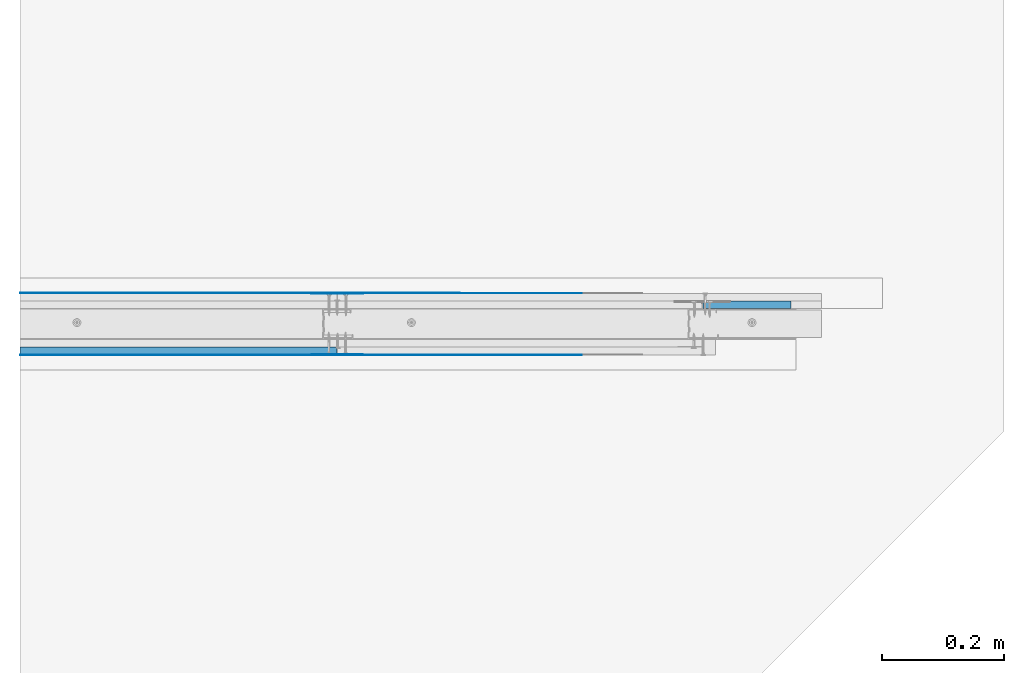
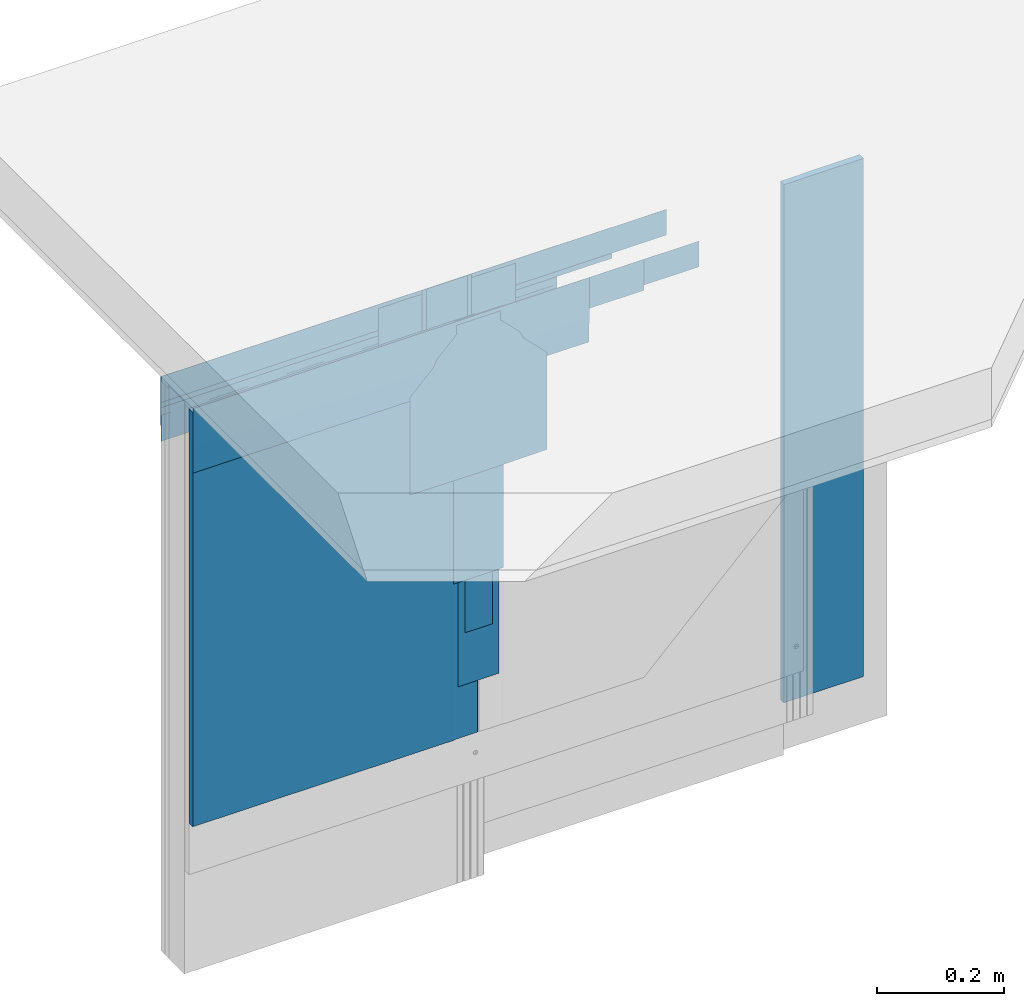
# One storey, part 4 of 37: 16 walls.
"""IFC2X3 building model written with IfcOpenShell, lengths in millimetres."""

from ifc_helpers import new_model, entity, si_unit, converted_unit, direction, frame, origin, origin_with_axes, place, context, project, spatial, faceted_brep, element, save


model = new_model("IFC2X3")

# Units and contexts
model_context = context("Model", 3, precision=1e-05, world=origin(), true_north=direction((0.0, 1.0, 0.0)))
ifc_project = project(units=[si_unit("LENGTHUNIT", "METRE", prefix="MILLI"), si_unit("AREAUNIT", "SQUARE_METRE"), si_unit("VOLUMEUNIT", "CUBIC_METRE"), converted_unit("PLANEANGLEUNIT", "DEGREE", entity("IfcPlaneAngleMeasure", 0.01745), si_unit("PLANEANGLEUNIT", "RADIAN"), dimensions=[0, 0, 0, 0, 0, 0, 0]), si_unit("SOLIDANGLEUNIT", "STERADIAN"), si_unit("MASSUNIT", "GRAM"), si_unit("TIMEUNIT", "SECOND"), si_unit("THERMODYNAMICTEMPERATUREUNIT", "DEGREE_CELSIUS"), si_unit("LUMINOUSINTENSITYUNIT", "LUMEN")], contexts=[model_context])

# Site, building, storey
site_placement = place(None, origin_with_axes())
site = spatial("IfcSite", under=ifc_project, at=site_placement, Name="Default Site", CompositionType="ELEMENT")
building_placement = place(site_placement, origin_with_axes())
building = spatial("IfcBuilding", under=site, at=building_placement, Name="Default Building", CompositionType="ELEMENT")
storey_placement = place(building_placement, origin_with_axes())
storey = spatial("IfcBuildingStorey", under=building, at=storey_placement, Name="Default Building Storey", CompositionType="ELEMENT", Elevation=0.0)

# Walls
wall_1_placement = place(storey_placement, frame((2612.545703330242, 5335.636799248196, 2103.683678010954), z_axis=(1.0, 1.078684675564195e-13, 1.253835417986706e-13), x_axis=(-1.253835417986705e-13, -6.938893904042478e-16, 1.0)))
element("IfcWall", 1, at=wall_1_placement, inside=storey, Name="Taśma spoinowa RIGIPS", context=model_context, shape_type="Brep", body=[
    faceted_brep([(-712.4592163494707, 3389.656721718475, 435.8839453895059), (-712.4592163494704, 3389.856721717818, 435.8839453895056), (-762.4592163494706, 3389.856721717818, 435.8839453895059), (-762.4592163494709, 3389.656721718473, 435.8839453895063), (-712.4592163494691, 3389.856721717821, -487.5205698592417), (-712.4592163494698, 3389.656721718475, -487.5205698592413), (-762.45921634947, 3389.656721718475, -487.5205698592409), (-762.4592163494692, 3389.856721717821, -487.5205698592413)], [[[0, 1, 2, 3]], [[4, 5, 6, 7]], [[5, 0, 3, 6]], [[6, 3, 2, 7]], [[7, 2, 1, 4]], [[4, 1, 0, 5]]]),
])
wall_2_placement = place(storey_placement, frame((2113.890138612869, 5336.736799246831, 2128.683678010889), z_axis=(1.0, 1.08201534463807e-13, 1.256333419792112e-13), x_axis=(-1.256333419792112e-13, -3.608224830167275e-16, 1.0)))
element("IfcWall", 2, at=wall_2_placement, inside=storey, Name="Dedykowana masa szpachlowa Rigips - wykończeniowa", context=model_context, shape_type="Brep", body=[
    faceted_brep([(-797.4592163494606, 3390.756721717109, 734.5395101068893), (-812.4592163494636, 3390.7567217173, 734.5395101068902), (-812.4592163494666, 3390.756721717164, 11.1349948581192), (-797.4592163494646, 3390.75672171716, 11.13499485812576), (-762.4602403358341, 3391.516720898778, 734.5395101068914), (-762.4602403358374, 3391.516720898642, 11.13499485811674), (-812.4612643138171, 3391.196716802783, 11.1349948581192), (-812.4612643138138, 3391.19671680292, 734.5395101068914), (-797.4592163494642, 3391.156721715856, 11.13499485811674), (-797.4592163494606, 3391.156721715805, 734.5395101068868), (-737.4592163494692, 3391.516720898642, 11.13499485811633), (-737.4592163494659, 3391.516720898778, 734.539510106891), (-862.459216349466, 3390.556721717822, 11.1349948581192), (-862.4592163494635, 3390.556721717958, 734.539510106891), (-737.4592163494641, 3391.156721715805, 734.539510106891), (-812.4592163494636, 3390.556721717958, 734.5395101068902), (-737.4592163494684, 3391.156721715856, 11.13499485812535), (-812.4592163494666, 3390.556721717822, 11.1349948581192)], [[[0, 1, 2, 3]], [[4, 5, 6, 7]], [[8, 9, 0, 3]], [[10, 5, 4, 11]], [[12, 13, 7, 6]], [[14, 11, 4, 7, 13, 15, 1, 0, 9]], [[16, 10, 11, 14]], [[15, 13, 12, 17]], [[15, 17, 2, 1]], [[16, 14, 9, 8]], [[3, 2, 17, 12, 6, 5, 10, 16, 8]]]),
])
wall_3_placement = place(storey_placement, frame((2562.545703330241, 5335.436799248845, 2103.683678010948), z_axis=(1.0, 1.078684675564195e-13, 1.253835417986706e-13), x_axis=(-1.253835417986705e-13, -6.938893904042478e-16, 1.0)))
element("IfcWall", 3, at=wall_3_placement, inside=storey, Name="Dedykowana masa szpachlowa Rigips - konstrukcyjna", context=model_context, shape_type="Brep", body=[
    faceted_brep([(-762.4592163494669, 3389.656721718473, -437.5205698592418), (-762.4592163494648, 3389.656721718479, 385.8839453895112), (-762.4592163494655, 3389.456721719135, 385.8839453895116), (-762.4592163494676, 3389.456721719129, -437.5205698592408), (-772.4592163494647, 3389.456721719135, 385.8839453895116), (-772.4592163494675, 3389.45672171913, -437.5205698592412), (-712.4592163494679, 3389.656721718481, 385.8839453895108), (-712.4592163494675, 3389.856721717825, 385.8839453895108), (-772.4592163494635, 3389.856721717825, 385.8839453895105), (-712.4592163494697, 3389.85672171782, -437.5205698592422), (-712.4592163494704, 3389.656721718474, -437.5205698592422), (-772.4592163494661, 3389.85672171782, -437.5205698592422)], [[[0, 1, 2, 3]], [[2, 4, 5, 3]], [[6, 7, 8, 4, 2, 1]], [[9, 10, 0, 3, 5, 11]], [[0, 10, 6, 1]], [[4, 8, 11, 5]], [[11, 8, 7, 9]], [[9, 7, 6, 10]]]),
])
wall_4_placement = place(storey_placement, frame((2612.545703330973, -1342.31579897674, 2103.683678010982), z_axis=(1.0, 1.078684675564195e-13, 1.253835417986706e-13), x_axis=(-1.253835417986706e-13, -2.775557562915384e-17, 1.0)))
element("IfcWall", 4, at=wall_4_placement, inside=storey, Name="Taśma spoinowa RIGIPS", context=model_context, shape_type="Brep", body=[
    faceted_brep([(-712.4592163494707, -3389.656721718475, 435.8839453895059), (-712.4592163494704, -3389.856721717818, 435.8839453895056), (-762.4592163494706, -3389.856721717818, 435.8839453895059), (-762.4592163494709, -3389.656721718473, 435.8839453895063), (-712.4592163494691, -3389.856721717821, -487.5205698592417), (-712.4592163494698, -3389.656721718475, -487.5205698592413), (-762.45921634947, -3389.656721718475, -487.5205698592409), (-762.4592163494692, -3389.856721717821, -487.5205698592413)], [[[0, 1, 2, 3]], [[4, 5, 6, 7]], [[5, 0, 3, 6]], [[6, 3, 2, 7]], [[7, 2, 1, 4]], [[4, 1, 0, 5]]]),
])
wall_5_placement = place(storey_placement, frame((2113.8901386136, -1343.415798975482, 2128.683678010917), z_axis=(1.0, 1.07535400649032e-13, 1.256333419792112e-13), x_axis=(-1.256333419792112e-13, -3.60822483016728e-16, 1.0)))
element("IfcWall", 5, at=wall_5_placement, inside=storey, Name="Dedykowana masa szpachlowa Rigips - wykończeniowa", context=model_context, shape_type="Brep", body=[
    faceted_brep([(-797.4592163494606, -3390.756721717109, 734.5395101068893), (-812.4592163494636, -3390.7567217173, 734.5395101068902), (-812.4592163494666, -3390.756721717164, 11.1349948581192), (-797.4592163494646, -3390.75672171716, 11.13499485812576), (-762.4602403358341, -3391.516720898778, 734.5395101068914), (-762.4602403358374, -3391.516720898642, 11.13499485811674), (-812.4612643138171, -3391.196716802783, 11.1349948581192), (-812.4612643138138, -3391.19671680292, 734.5395101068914), (-797.4592163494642, -3391.156721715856, 11.13499485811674), (-797.4592163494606, -3391.156721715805, 734.5395101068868), (-737.4592163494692, -3391.516720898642, 11.13499485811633), (-737.4592163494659, -3391.516720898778, 734.539510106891), (-862.459216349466, -3390.556721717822, 11.1349948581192), (-862.4592163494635, -3390.556721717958, 734.539510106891), (-737.4592163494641, -3391.156721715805, 734.539510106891), (-812.4592163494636, -3390.556721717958, 734.5395101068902), (-737.4592163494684, -3391.156721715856, 11.13499485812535), (-812.4592163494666, -3390.556721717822, 11.1349948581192)], [[[0, 1, 2, 3]], [[4, 5, 6, 7]], [[8, 9, 0, 3]], [[10, 5, 4, 11]], [[12, 13, 7, 6]], [[14, 11, 4, 7, 13, 15, 1, 0, 9]], [[16, 10, 11, 14]], [[15, 13, 12, 17]], [[15, 17, 2, 1]], [[16, 14, 9, 8]], [[3, 2, 17, 12, 6, 5, 10, 16, 8]]]),
])
wall_6_placement = place(storey_placement, frame((2562.545703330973, -1342.115798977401, 2103.683678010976), z_axis=(1.0, 1.078684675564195e-13, 1.253835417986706e-13), x_axis=(-1.253835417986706e-13, -2.775557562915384e-17, 1.0)))
element("IfcWall", 6, at=wall_6_placement, inside=storey, Name="Dedykowana masa szpachlowa Rigips - konstrukcyjna", context=model_context, shape_type="Brep", body=[
    faceted_brep([(-762.4592163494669, -3389.656721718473, -437.5205698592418), (-762.4592163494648, -3389.656721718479, 385.8839453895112), (-762.4592163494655, -3389.456721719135, 385.8839453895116), (-762.4592163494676, -3389.456721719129, -437.5205698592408), (-772.4592163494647, -3389.456721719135, 385.8839453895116), (-772.4592163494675, -3389.45672171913, -437.5205698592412), (-712.4592163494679, -3389.656721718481, 385.8839453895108), (-712.4592163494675, -3389.856721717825, 385.8839453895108), (-772.4592163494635, -3389.856721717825, 385.8839453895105), (-712.4592163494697, -3389.85672171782, -437.5205698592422), (-712.4592163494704, -3389.656721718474, -437.5205698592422), (-772.4592163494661, -3389.85672171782, -437.5205698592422)], [[[0, 1, 2, 3]], [[2, 4, 5, 3]], [[6, 7, 8, 4, 2, 1]], [[9, 10, 0, 3, 5, 11]], [[0, 10, 6, 1]], [[4, 8, 11, 5]], [[11, 8, 7, 9]], [[9, 7, 6, 10]]]),
])
for number, where, z_axis, x_axis, name in (
    (7, (1909.970432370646, -1343.415798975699, 1386.260066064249), (0.0, 0.0, -1.0), (-1.0, -8.049116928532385e-16, 0.0), "Dedykowana masa szpachlowa Rigips - wykończeniowa"),
    (8, (3383.70164675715, 5336.736799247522, 1386.260066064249), (0.0, 0.0, -1.0), (1.0, 0.0, 0.0), "Dedykowana masa szpachlowa Rigips - wykończeniowa"),
):
    element("IfcWall", number, at=place(storey_placement, frame(where, z_axis=z_axis, x_axis=x_axis)), inside=storey, Name=name, context=model_context, shape_type="Brep", body=[
        faceted_brep([(-612.459216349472, 3390.556721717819, 2.449996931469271), (-862.459216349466, 3390.556721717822, 2.449996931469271), (-812.4612643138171, 3391.196716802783, 2.449996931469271), (-762.4602403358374, 3391.516720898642, 2.449996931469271), (-712.458192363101, 3391.516720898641, 2.449996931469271), (-662.4571683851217, 3391.19671680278, 2.449996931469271), (-762.4602403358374, 3391.516720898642, 300.8000000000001), (-812.4612643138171, 3391.196716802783, 300.8000000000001), (-862.459216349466, 3390.556721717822, 300.8000000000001), (-612.459216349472, 3390.556721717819, 300.8000000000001), (-662.4571683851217, 3391.19671680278, 300.8000000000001), (-712.458192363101, 3391.516720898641, 300.8000000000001)], [[[0, 1, 2, 3, 4, 5]], [[6, 7, 8, 9, 10, 11]], [[9, 0, 5, 10]], [[10, 5, 4, 11]], [[11, 4, 3, 6]], [[6, 3, 2, 7]], [[1, 8, 7, 2]], [[0, 9, 8, 1]]]),
    ])
wall_7_placement = place(storey_placement, frame((2646.242430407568, 1958.680077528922, 333.8084874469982), z_axis=(0.0, 0.0, -1.0), x_axis=(-1.0, 6.389333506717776e-13, 0.0)))
element("IfcWall", 9, at=wall_7_placement, inside=storey, Name="Płyta gipsowo-kartonowa RIGIPS PRO (4PRO™)", context=model_context, shape_type="Brep", body=[
    faceted_brep([(521.2172969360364, -12.49999999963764, -249.9999999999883), (521.2172969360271, 3.346059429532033e-10, -249.9999999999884), (521.217296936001, 3.313573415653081e-10, -1050.001581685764), (521.2172969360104, -12.49999999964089, -1050.001581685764), (44.99999999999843, -12.50000000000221, -249.9999999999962), (40.99999999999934, -11.50000000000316, -249.9999999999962), (0.9999999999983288, -11.50000000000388, -249.9999999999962), (0.7411809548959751, -11.46592582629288, -249.9999999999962), (0.4999999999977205, -11.3660254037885, -249.9999999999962), (0.29289321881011, -11.20710678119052, -249.9999999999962), (0.1339745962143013, -11.00000000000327, -249.9999999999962), (0.03407417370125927, -10.7588190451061, -249.9999999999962), (-1.443822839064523e-12, -10.50000000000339, -249.9999999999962), (0.0, 0.0, -249.9999999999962), (44.99999999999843, -12.50000000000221, -1050.001581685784), (40.99999999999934, -11.50000000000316, -1050.001581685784), (0.9999999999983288, -11.50000000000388, -1050.001581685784), (0.7411809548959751, -11.46592582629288, -1050.001581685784), (0.4999999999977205, -11.3660254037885, -1050.001581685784), (0.29289321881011, -11.20710678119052, -1050.001581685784), (0.1339745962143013, -11.00000000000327, -1050.001581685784), (0.03407417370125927, -10.7588190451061, -1050.001581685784), (-1.443822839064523e-12, -10.50000000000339, -1050.001581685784), (0.0, 0.0, -1050.001581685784)], [[[0, 1, 2, 3]], [[0, 4, 5, 6, 7, 8, 9, 10, 11, 12, 13, 1]], [[3, 14, 4, 0]], [[5, 4, 14, 15]], [[6, 5, 15, 16]], [[7, 6, 16, 17]], [[8, 7, 17, 18]], [[9, 8, 18, 19]], [[10, 9, 19, 20]], [[11, 10, 20, 21]], [[12, 11, 21, 22]], [[13, 12, 22, 23]], [[2, 1, 13, 23]], [[14, 3, 2, 23, 22, 21, 20, 19, 18, 17, 16, 15]]]),
])
wall_8_placement = place(storey_placement, frame((3247.843862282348, 2022.140922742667, 106.0307584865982), z_axis=(0.0, 0.0, -1.0), x_axis=(1.0, 0.0, 0.0)))
element("IfcWall", 10, at=wall_8_placement, inside=storey, Name="Płyta gipsowo-kartonowa RIGIPS PRO (4PRO™)", context=model_context, shape_type="Brep", body=[
    faceted_brep([(145.1967559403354, -12.49999999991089, -277.7777289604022), (145.1967559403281, 9.059988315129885e-11, -277.7777289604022), (145.1967559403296, 9.023892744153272e-11, -1277.779310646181), (145.1967559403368, -12.49999999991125, -1277.779310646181), (0.0, 0.0, -277.7777289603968), (44.99999999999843, -12.50000000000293, -277.7777289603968), (40.99999999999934, -11.50000000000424, -277.7777289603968), (0.9999999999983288, -11.5000000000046, -277.7777289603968), (0.7411809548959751, -11.46592582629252, -277.7777289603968), (0.4999999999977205, -11.3660254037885, -277.7777289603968), (0.2928932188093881, -11.20710678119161, -277.7777289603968), (0.1339745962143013, -11.00000000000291, -277.7777289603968), (0.03407417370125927, -10.7588190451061, -277.7777289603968), (-2.887645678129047e-12, -10.50000000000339, -277.7777289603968), (44.99999999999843, -12.50000000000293, -1277.779310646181), (40.99999999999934, -11.50000000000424, -1277.779310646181), (0.9999999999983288, -11.5000000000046, -1277.779310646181), (0.7411809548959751, -11.46592582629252, -1277.779310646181), (0.4999999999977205, -11.3660254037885, -1277.779310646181), (0.2928932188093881, -11.20710678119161, -1277.779310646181), (0.1339745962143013, -11.00000000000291, -1277.779310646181), (0.03407417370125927, -10.7588190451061, -1277.779310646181), (-2.887645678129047e-12, -10.50000000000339, -1277.779310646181), (0.0, 0.0, -1277.779310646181)], [[[0, 1, 2, 3]], [[4, 1, 0, 5, 6, 7, 8, 9, 10, 11, 12, 13]], [[0, 3, 14, 5]], [[6, 5, 14, 15]], [[7, 6, 15, 16]], [[8, 7, 16, 17]], [[9, 8, 17, 18]], [[10, 9, 18, 19]], [[11, 10, 19, 20]], [[12, 11, 20, 21]], [[13, 12, 21, 22]], [[4, 13, 22, 23]], [[23, 2, 1, 4]], [[14, 3, 2, 23, 22, 21, 20, 19, 18, 17, 16, 15]]]),
])
wall_9_placement = place(storey_placement, frame((3396.701646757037, 5336.836799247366, 1069.692432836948), z_axis=(1.250805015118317e-13, 1.018436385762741e-13, -1.0), x_axis=(1.0, 5.330939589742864e-15, 1.250805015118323e-13)))
element("IfcWall", 11, at=wall_9_placement, inside=storey, Name="Dedykowana masa szpachlowa Rigips - konstrukcyjna", context=model_context, shape_type="Brep", body=[
    faceted_brep([(-712.459216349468, 3389.656721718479, 385.8839453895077), (-712.4592163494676, 3389.856721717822, 385.8839453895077), (-787.4592163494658, 3389.856721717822, 385.8839453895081), (-787.4592163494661, 3389.656721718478, 385.8839453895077), (-712.4592163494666, 3389.856721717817, -321.7320288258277), (-712.4592163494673, 3389.656721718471, -321.7320288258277), (-787.4592163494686, 3389.656721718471, -321.7320288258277), (-787.459216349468, 3389.856721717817, -321.7320288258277)], [[[0, 1, 2, 3]], [[4, 5, 6, 7]], [[5, 0, 3, 6]], [[6, 3, 2, 7]], [[7, 2, 1, 4]], [[4, 1, 0, 5]]]),
])
wall_10_placement = place(storey_placement, frame((3384.701646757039, 5336.636799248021, 1031.66776793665), z_axis=(1.250805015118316e-13, 1.021019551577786e-13, -1.0), x_axis=(1.0, 5.330939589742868e-15, 1.250805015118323e-13)))
element("IfcWall", 12, at=wall_10_placement, inside=storey, Name="Taśma spoinowa RIGIPS", context=model_context, shape_type="Brep", body=[
    faceted_brep([(-712.4592163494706, 3389.656721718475, 247.8592804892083), (-712.4592163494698, 3389.856721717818, 247.8592804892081), (-762.45921634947, 3389.856721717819, 247.8592804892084), (-762.4592163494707, 3389.656721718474, 247.8592804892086), (-712.4592163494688, 3389.856721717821, -359.7566937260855), (-712.4592163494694, 3389.656721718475, -359.7566937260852), (-762.4592163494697, 3389.656721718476, -359.756693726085), (-762.4592163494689, 3389.856721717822, -359.7566937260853)], [[[0, 1, 2, 3]], [[4, 5, 6, 7]], [[5, 0, 3, 6]], [[6, 3, 2, 7]], [[7, 2, 1, 4]], [[4, 1, 0, 5]]]),
])
wall_11_placement = place(storey_placement, frame((3384.701646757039, -1343.315798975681, 1031.66776793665), z_axis=(1.250805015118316e-13, -1.021019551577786e-13, -1.0), x_axis=(1.0, -5.330939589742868e-15, 1.250805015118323e-13)))
element("IfcWall", 13, at=wall_11_placement, inside=storey, Name="Taśma spoinowa RIGIPS", context=model_context, shape_type="Brep", body=[
    faceted_brep([(-712.4592163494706, -3389.656721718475, 247.8592804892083), (-712.4592163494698, -3389.856721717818, 247.8592804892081), (-762.45921634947, -3389.856721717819, 247.8592804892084), (-762.4592163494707, -3389.656721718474, 247.8592804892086), (-712.4592163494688, -3389.856721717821, -359.7566937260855), (-712.4592163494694, -3389.656721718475, -359.7566937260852), (-762.4592163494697, -3389.656721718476, -359.756693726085), (-762.4592163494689, -3389.856721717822, -359.7566937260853)], [[[0, 1, 2, 3]], [[4, 5, 6, 7]], [[5, 0, 3, 6]], [[6, 3, 2, 7]], [[7, 2, 1, 4]], [[4, 1, 0, 5]]]),
])
wall_12_placement = place(storey_placement, frame((3396.701646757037, -1343.515798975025, 1069.692432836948), z_axis=(1.250805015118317e-13, -1.018436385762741e-13, -1.0), x_axis=(1.0, -5.330939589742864e-15, 1.250805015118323e-13)))
element("IfcWall", 14, at=wall_12_placement, inside=storey, Name="Dedykowana masa szpachlowa Rigips - konstrukcyjna", context=model_context, shape_type="Brep", body=[
    faceted_brep([(-712.459216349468, -3389.656721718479, 385.8839453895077), (-712.4592163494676, -3389.856721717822, 385.8839453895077), (-787.4592163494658, -3389.856721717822, 385.8839453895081), (-787.4592163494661, -3389.656721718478, 385.8839453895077), (-712.4592163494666, -3389.856721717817, -321.7320288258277), (-712.4592163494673, -3389.656721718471, -321.7320288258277), (-787.4592163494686, -3389.656721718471, -321.7320288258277), (-787.459216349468, -3389.856721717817, -321.7320288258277)], [[[0, 1, 2, 3]], [[4, 5, 6, 7]], [[5, 0, 3, 6]], [[6, 3, 2, 7]], [[7, 2, 1, 4]], [[4, 1, 0, 5]]]),
])
wall_13_placement = place(storey_placement, frame((1909.78321405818, 5336.736799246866, 1393.911892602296), z_axis=(0.0, 0.0, -1.0), x_axis=(-1.0, 0.0, 0.0)))
element("IfcWall", 15, at=wall_13_placement, inside=storey, Name="Dedykowana masa szpachlowa Rigips - konstrukcyjna", context=model_context, shape_type="Brep", body=[
    faceted_brep([(-691.4592163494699, -3390.556721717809, 508.4518265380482), (-694.7925496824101, -3389.556721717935, 508.4518265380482), (-694.7925496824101, -3389.556721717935, 2.487430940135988), (-691.4592163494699, -3390.556721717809, 2.48743094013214), (-699.4592163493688, -3389.556721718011, 2.48743094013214), (-699.459216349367, -3389.756721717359, 2.48743094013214), (-712.4592163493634, -3389.756721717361, 2.48743094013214), (-712.4592163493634, -3389.956721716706, 2.48743094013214), (-762.459216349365, -3389.956721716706, 2.48743094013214), (-762.4592163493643, -3389.756721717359, 2.48743094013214), (-774.4592163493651, -3389.756721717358, 2.48743094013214), (-774.4592163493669, -3389.556721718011, 2.48743094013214), (-778.4592163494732, -3389.556721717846, 2.48743094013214), (-782.4592163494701, -3390.556721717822, 2.48743094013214), (-778.459216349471, -3389.55672171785, 508.4518265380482), (-774.4592163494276, -3389.556721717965, 508.4518265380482), (-782.4592163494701, -3390.556721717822, 508.4518265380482), (-774.4592163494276, -3389.756721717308, 508.4518265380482), (-762.4592163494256, -3389.756721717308, 508.4518265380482), (-762.4592163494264, -3389.956721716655, 508.4518265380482), (-712.4592163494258, -3389.956721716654, 508.4518265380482), (-712.4592163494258, -3389.75672171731, 508.4518265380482), (-699.4592163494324, -3389.756721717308, 508.4518265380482), (-699.4592163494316, -3389.556721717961, 508.4518265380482)], [[[0, 1, 2, 3]], [[4, 5, 6, 7, 8, 9, 10, 11, 12, 13, 3, 2]], [[14, 12, 11, 15]], [[16, 13, 12, 14]], [[0, 16, 14, 15, 17, 18, 19, 20, 21, 22, 23, 1]], [[13, 16, 0, 3]], [[22, 5, 4, 23]], [[7, 20, 19, 8]], [[6, 21, 20, 7]], [[17, 10, 9, 18]], [[21, 6, 5, 22]], [[1, 23, 4, 2]], [[15, 11, 10, 17]], [[18, 9, 8, 19]]]),
])
wall_14_placement = place(storey_placement, frame((1909.78321405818, -1343.415798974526, 1393.911892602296), z_axis=(0.0, 0.0, -1.0), x_axis=(-1.0, 0.0, 0.0)))
element("IfcWall", 16, at=wall_14_placement, inside=storey, Name="Dedykowana masa szpachlowa Rigips - konstrukcyjna", context=model_context, shape_type="Brep", body=[
    faceted_brep([(-694.7925496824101, 3389.556721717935, 508.4518265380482), (-699.4592163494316, 3389.556721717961, 508.4518265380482), (-699.4592163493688, 3389.556721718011, 2.48743094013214), (-694.7925496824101, 3389.556721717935, 2.487430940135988), (-691.4592163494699, 3390.556721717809, 508.4518265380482), (-691.4592163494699, 3390.556721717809, 2.48743094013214), (-778.459216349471, 3389.55672171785, 508.4518265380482), (-778.4592163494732, 3389.556721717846, 2.48743094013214), (-774.4592163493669, 3389.556721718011, 2.48743094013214), (-774.4592163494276, 3389.556721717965, 508.4518265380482), (-782.4592163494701, 3390.556721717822, 508.4518265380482), (-782.4592163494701, 3390.556721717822, 2.48743094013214), (-774.4592163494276, 3389.756721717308, 508.4518265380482), (-762.4592163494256, 3389.756721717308, 508.4518265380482), (-762.4592163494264, 3389.956721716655, 508.4518265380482), (-712.4592163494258, 3389.956721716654, 508.4518265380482), (-712.4592163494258, 3389.75672171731, 508.4518265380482), (-699.4592163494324, 3389.756721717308, 508.4518265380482), (-712.4592163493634, 3389.756721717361, 2.48743094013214), (-712.4592163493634, 3389.956721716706, 2.48743094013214), (-699.459216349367, 3389.756721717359, 2.48743094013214), (-762.459216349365, 3389.956721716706, 2.48743094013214), (-774.4592163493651, 3389.756721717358, 2.48743094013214), (-762.4592163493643, 3389.756721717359, 2.48743094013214)], [[[0, 1, 2, 3]], [[4, 0, 3, 5]], [[6, 7, 8, 9]], [[10, 11, 7, 6]], [[4, 10, 6, 9, 12, 13, 14, 15, 16, 17, 1, 0]], [[18, 16, 15, 19]], [[17, 20, 2, 1]], [[11, 10, 4, 5]], [[19, 15, 14, 21]], [[12, 22, 23, 13]], [[16, 18, 20, 17]], [[9, 8, 22, 12]], [[13, 23, 21, 14]], [[2, 20, 18, 19, 21, 23, 22, 8, 7, 11, 5, 3]]]),
])

save(model, "model.ifc")
